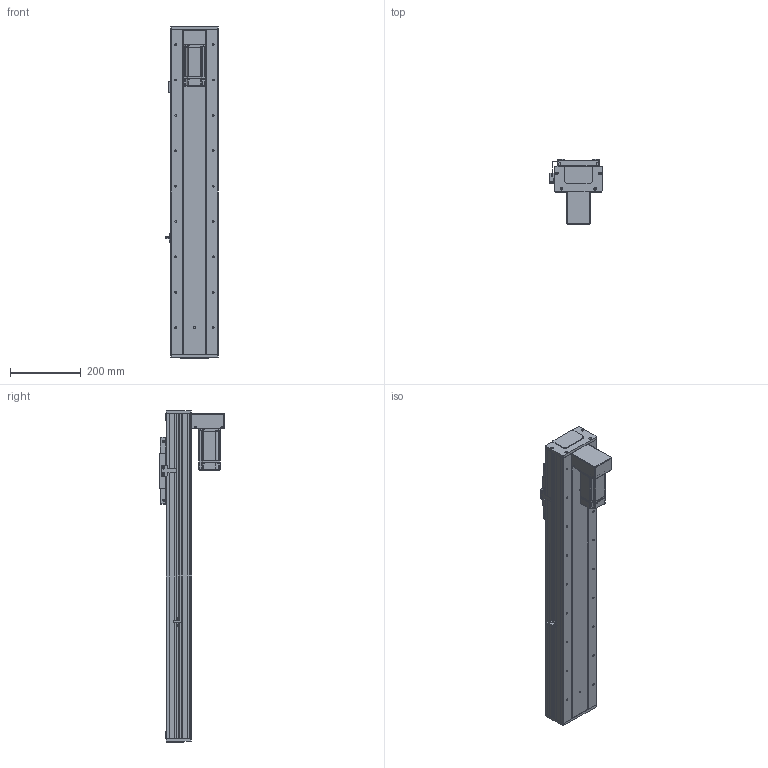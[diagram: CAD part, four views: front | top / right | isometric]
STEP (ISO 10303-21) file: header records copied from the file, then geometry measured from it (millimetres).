
FILE_DESCRIPTION (( 'STEP AP203' ), '1' );
FILE_NAME ('RY140F-L2020-300-BK.SLDASM_650.step', '2021-03-02T08:26:52', ( '盈信电脑' ), ( '东莞市道滘镇水果街19号' ), 'SwSTEP 2.0', 'SolidWorks 2012', '' );
FILE_SCHEMA (( 'CONFIG_CONTROL_DESIGN' ));
Products named in the file (21): RY140F-直连型材铝滑块(16丝杆); RY140F-L2020-300-BK.SLDASM_650; RY140F-狟殏萇儂欶(400W); RY140F-詩湍嘐隅輸; 滅袉蝶18-10; RY140F-672覜茼んえ; RY140F-狟殏萇儂啣(400W M5); 侐源滅袉蝶; RY140F-詩湍揤え; 覜茼ん672; 侂狟400W侜督萇儂; 15; RY140F-后盖板(铝件）; RY140F-滅鳥奻裔; RY100F-詩湍揤踡謫; RY140F-詩湍幗謫粣; 藻笠沭; RY140F-300-BK倰第奻裔啣_650; RY140F-直连型材铝滑块连接座; RY140F-300-BK蛌殏詩湍_650; RY140F-300-BK倰第菁釱_650
Assembly tree (26 placements, depth 3):
  RY140F-L2020-300-BK.SLDASM_650
    RY140F-300-BK倰第菁釱_650
    RY140F-300-BK倰第奻裔啣_650  x2
    RY140F-300-BK蛌殏詩湍_650
    RY140F-直连型材铝滑块连接座
    RY140F-滅鳥奻裔
    RY140F-詩湍幗謫粣
    藻笠沭  x2
    RY100F-詩湍揤踡謫
    RY140F-后盖板(铝件）  x2
    侂狟400W侜督萇儂
      15
    覜茼ん672
    RY140F-672覜茼んえ
    RY140F-詩湍揤え  x2
    侐源滅袉蝶  x2
    RY140F-狟殏萇儂啣(400W M5)
    RY140F-狟殏萇儂欶(400W)
    RY140F-詩湍嘐隅輸
    滅袉蝶18-10  x2
    RY140F-直连型材铝滑块(16丝杆)
Bounding box: 148.7 x 184.5 x 939 mm (x, y, z)
Volume: 3777005.9 mm3; surface area: 1338544.2 mm2
Topology: 25 solids, 25 shells, 2008 faces, 5496 edges, 3508 vertices
Faces by surface type: cylinder 971, plane 811, cone 200, bspline 22, torus 4
Entity records: 63256 total; most frequent: CARTESIAN_POINT 13315, DIRECTION 10075, ORIENTED_EDGE 9820, EDGE_CURVE 4910, AXIS2_PLACEMENT_3D 3596, VERTEX_POINT 3212, VECTOR 2883, LINE 2883
